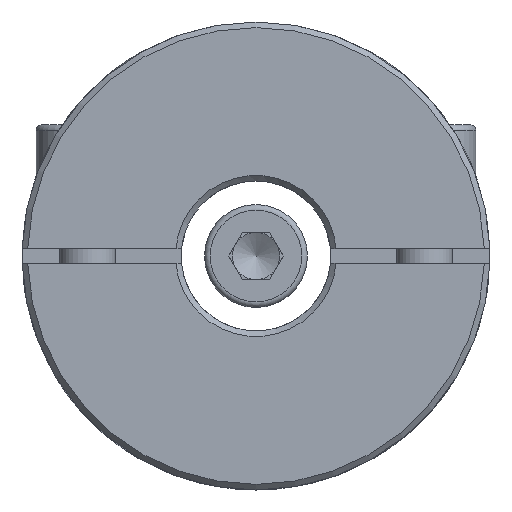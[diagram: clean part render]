
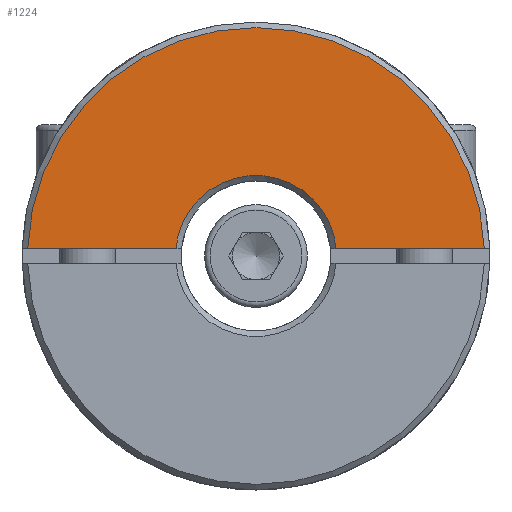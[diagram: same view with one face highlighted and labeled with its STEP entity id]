
A CAD part, left-side view. The second image highlights one B-rep face of the part: STEP entity #1224.
In plain terms, the highlighted planar face has unit normal (-1, 0, 0) as drawn and (1, 0, 0) by its records, which use the part's own axes.
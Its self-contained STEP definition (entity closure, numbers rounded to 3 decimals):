
#1224 = ADVANCED_FACE( '', ( #1864 ), #1865, .T. );
#1864 = FACE_OUTER_BOUND( '', #2173, .T. );
#1865 = PLANE( '', #2174 );
#2173 = EDGE_LOOP( '', ( #2623, #2624, #2625, #2626 ) );
#2174 = AXIS2_PLACEMENT_3D( '', #2627, #2628, #2629 );
#2623 = ORIENTED_EDGE( '', *, *, #3175, .F. );
#2624 = ORIENTED_EDGE( '', *, *, #3164, .T. );
#2625 = ORIENTED_EDGE( '', *, *, #3169, .F. );
#2626 = ORIENTED_EDGE( '', *, *, #3158, .T. );
#2627 = CARTESIAN_POINT( '', ( 11., 0., 12.5 ) );
#2628 = DIRECTION( '', ( 1., 0., 0. ) );
#2629 = DIRECTION( '', ( 0., 0., -1. ) );
#3158 = EDGE_CURVE( '', #3538, #3535, #3539, .F. );
#3164 = EDGE_CURVE( '', #3544, #3548, #3550, .T. );
#3169 = EDGE_CURVE( '', #3538, #3548, #3558, .T. );
#3175 = EDGE_CURVE( '', #3544, #3535, #3567, .T. );
#3535 = VERTEX_POINT( '', #3687 );
#3538 = VERTEX_POINT( '', #3693 );
#3539 = CIRCLE( '', #3694, 4.3 );
#3544 = VERTEX_POINT( '', #3702 );
#3548 = VERTEX_POINT( '', #3709 );
#3550 = CIRCLE( '', #3714, 12.2 );
#3558 = LINE( '', #3725, #3726 );
#3567 = LINE( '', #3737, #3738 );
#3687 = CARTESIAN_POINT( '', ( 11., 4.281, 0.4 ) );
#3693 = CARTESIAN_POINT( '', ( 11., -4.281, 0.4 ) );
#3694 = AXIS2_PLACEMENT_3D( '', #4109, #4110, #4111 );
#3702 = CARTESIAN_POINT( '', ( 11., 12.193, 0.4 ) );
#3709 = CARTESIAN_POINT( '', ( 11., -12.193, 0.4 ) );
#3714 = AXIS2_PLACEMENT_3D( '', #4118, #4119, #4120 );
#3725 = CARTESIAN_POINT( '', ( 11., 0., 0.4 ) );
#3726 = VECTOR( '', #4127, 1000. );
#3737 = CARTESIAN_POINT( '', ( 11., 0., 0.4 ) );
#3738 = VECTOR( '', #4139, 1000. );
#4109 = CARTESIAN_POINT( '', ( 11., 0., 0. ) );
#4110 = DIRECTION( '', ( 1., 0., 0. ) );
#4111 = DIRECTION( '', ( 0., 0., -1. ) );
#4118 = CARTESIAN_POINT( '', ( 11., 0., 0. ) );
#4119 = DIRECTION( '', ( 1., 0., 0. ) );
#4120 = DIRECTION( '', ( 0., 0., -1. ) );
#4127 = DIRECTION( '', ( 0., -1., 0. ) );
#4139 = DIRECTION( '', ( 0., -1., 0. ) );
